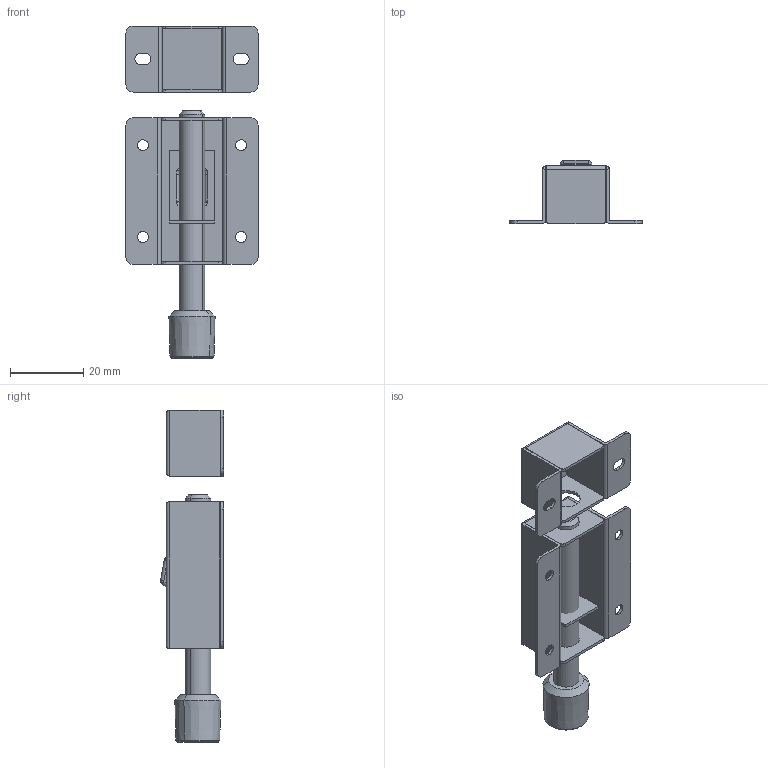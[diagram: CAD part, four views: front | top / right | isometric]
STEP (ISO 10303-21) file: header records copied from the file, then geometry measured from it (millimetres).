
FILE_DESCRIPTION (( 'STEP AP214' ), '1' );
FILE_NAME ('EL-250-A.STEP', '2016-01-20T09:58:46', ( '' ), ( '' ), 'SwSTEP 2.0', 'SolidWorks 2012', '' );
FILE_SCHEMA (( 'AUTOMOTIVE_DESIGN' ));
Length unit declared in the file: millimetre
Products named in the file (5): EL-250E; EL-250C; EL-250B; EL-250A; EL-250-A
Assembly tree (4 placements, depth 2):
  EL-250-A
    EL-250A
    EL-250B
    EL-250C
    EL-250E
Bounding box: 36 x 17.2 x 90.5 mm (x, y, z)
Volume: 7472.5 mm3; surface area: 12215.6 mm2
Topology: 4 solids, 4 shells, 224 faces, 562 edges, 342 vertices
Faces by surface type: cylinder 96, plane 92, bspline 16, torus 12, cone 8
Entity records: 7120 total; most frequent: CARTESIAN_POINT 1593, DIRECTION 1142, ORIENTED_EDGE 1108, EDGE_CURVE 554, AXIS2_PLACEMENT_3D 413, VERTEX_POINT 342, LINE 316, VECTOR 316
